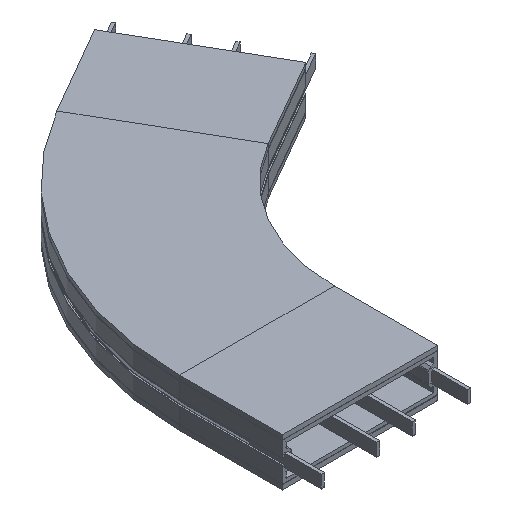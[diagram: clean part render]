
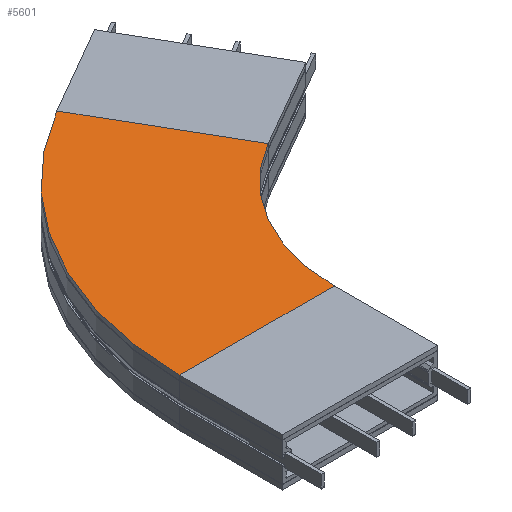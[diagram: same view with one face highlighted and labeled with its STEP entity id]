
A CAD part, isometric view. The second image highlights one B-rep face of the part: STEP entity #5601.
In plain terms, the highlighted planar face has unit normal (0, 0, 1).
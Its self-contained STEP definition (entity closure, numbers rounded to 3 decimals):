
#331 = ORIENTED_EDGE ( 'NONE', *, *, #4676, .F. ) ;
#418 = PLANE ( 'NONE',  #3569 ) ;
#439 = DIRECTION ( 'NONE',  ( -1., 0., 0. ) ) ;
#489 = VECTOR ( 'NONE', #439, 1000. ) ;
#988 = CARTESIAN_POINT ( 'NONE',  ( 0., 0., 46.5 ) ) ;
#1236 = VERTEX_POINT ( 'NONE', #4363 ) ;
#1277 = LINE ( 'NONE', #9958, #489 ) ;
#1705 = VECTOR ( 'NONE', #8802, 1000. ) ;
#1726 = VERTEX_POINT ( 'NONE', #7274 ) ;
#1836 = ORIENTED_EDGE ( 'NONE', *, *, #9056, .T. ) ;
#2290 = VERTEX_POINT ( 'NONE', #8490 ) ;
#2394 = CIRCLE ( 'NONE', #7525, 350. ) ;
#2473 = DIRECTION ( 'NONE',  ( -0.5, 0.866, 0. ) ) ;
#3297 = DIRECTION ( 'NONE',  ( 0., 0., 1. ) ) ;
#3565 = DIRECTION ( 'NONE',  ( 0., 0., 1. ) ) ;
#3569 = AXIS2_PLACEMENT_3D ( 'NONE', #3717, #3565, #5948 ) ;
#3717 = CARTESIAN_POINT ( 'NONE',  ( -325., 562.917, 46.5 ) ) ;
#4363 = CARTESIAN_POINT ( 'NONE',  ( -350., 0., 46.5 ) ) ;
#4676 = EDGE_CURVE ( 'NONE', #1236, #5284, #1277, .T. ) ;
#4901 = DIRECTION ( 'NONE',  ( -0.5, 0.866, 0. ) ) ;
#5008 = ORIENTED_EDGE ( 'NONE', *, *, #8045, .F. ) ;
#5284 = VERTEX_POINT ( 'NONE', #9106 ) ;
#5601 = ADVANCED_FACE ( 'NONE', ( #6889 ), #418, .T. ) ;
#5623 = DIRECTION ( 'NONE',  ( 0., 0., 1. ) ) ;
#5944 = EDGE_LOOP ( 'NONE', ( #331, #5008, #8271, #1836 ) ) ;
#5948 = DIRECTION ( 'NONE',  ( 1., 0., 0. ) ) ;
#6573 = EDGE_CURVE ( 'NONE', #2290, #1726, #8021, .T. ) ;
#6582 = CARTESIAN_POINT ( 'NONE',  ( 0., 0., 46.5 ) ) ;
#6889 = FACE_OUTER_BOUND ( 'NONE', #5944, .T. ) ;
#7274 = CARTESIAN_POINT ( 'NONE',  ( -325., 562.917, 46.5 ) ) ;
#7525 = AXIS2_PLACEMENT_3D ( 'NONE', #988, #3297, #2473 ) ;
#8021 = LINE ( 'NONE', #9623, #1705 ) ;
#8045 = EDGE_CURVE ( 'NONE', #2290, #1236, #2394, .T. ) ;
#8204 = AXIS2_PLACEMENT_3D ( 'NONE', #6582, #5623, #4901 ) ;
#8271 = ORIENTED_EDGE ( 'NONE', *, *, #6573, .T. ) ;
#8490 = CARTESIAN_POINT ( 'NONE',  ( -175., 303.109, 46.5 ) ) ;
#8802 = DIRECTION ( 'NONE',  ( -0.5, 0.866, 0. ) ) ;
#9056 = EDGE_CURVE ( 'NONE', #1726, #5284, #10024, .T. ) ;
#9106 = CARTESIAN_POINT ( 'NONE',  ( -650., 0., 46.5 ) ) ;
#9623 = CARTESIAN_POINT ( 'NONE',  ( -325., 562.917, 46.5 ) ) ;
#9958 = CARTESIAN_POINT ( 'NONE',  ( -650., 0., 46.5 ) ) ;
#10024 = CIRCLE ( 'NONE', #8204, 650. ) ;
